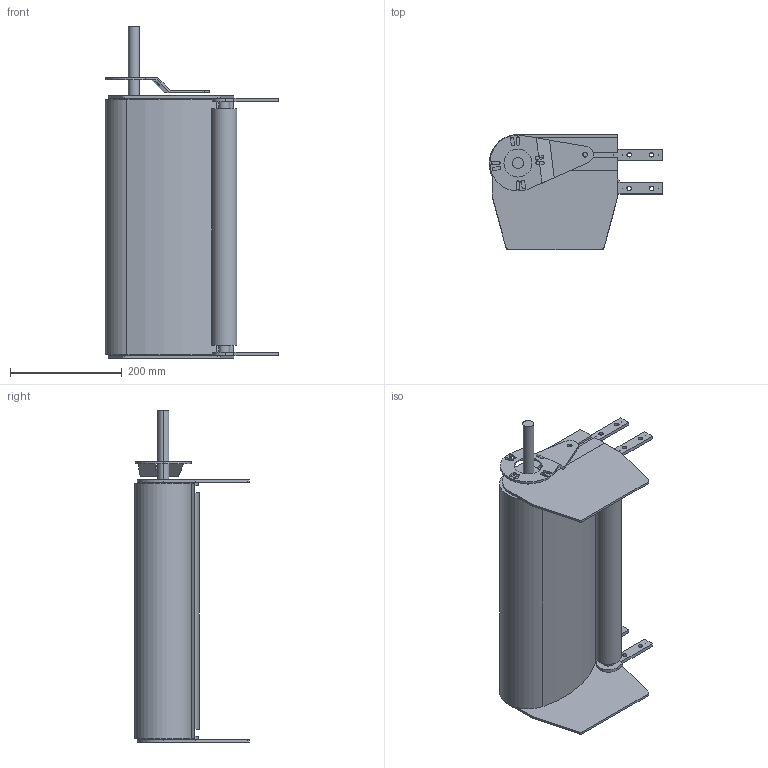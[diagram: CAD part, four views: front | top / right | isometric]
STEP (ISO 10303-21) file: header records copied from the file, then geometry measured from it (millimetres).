
FILE_DESCRIPTION (( 'STEP AP214' ), '1' );
FILE_NAME ('FS-470-MTS-100.ALU Left Drive section 20.STEP', '2017-02-08T09:33:46', ( '' ), ( '' ), 'SwSTEP 2.0', 'SolidWorks 2016', '' );
FILE_SCHEMA (( 'AUTOMOTIVE_DESIGN' ));
Length unit declared in the file: millimetre
Products named in the file (1): FS-470-MTS-100.ALU Left Drive section 20
Bounding box: 309.96 x 205 x 593 mm (x, y, z)
Volume: 3533510.1 mm3; surface area: 847323.3 mm2
Topology: 3 solids, 3 shells, 236 faces, 689 edges, 456 vertices
Faces by surface type: plane 131, cylinder 105
Entity records: 8039 total; most frequent: CARTESIAN_POINT 1394, ORIENTED_EDGE 1378, DIRECTION 1365, EDGE_CURVE 689, VECTOR 479, LINE 479, VERTEX_POINT 456, AXIS2_PLACEMENT_3D 443
